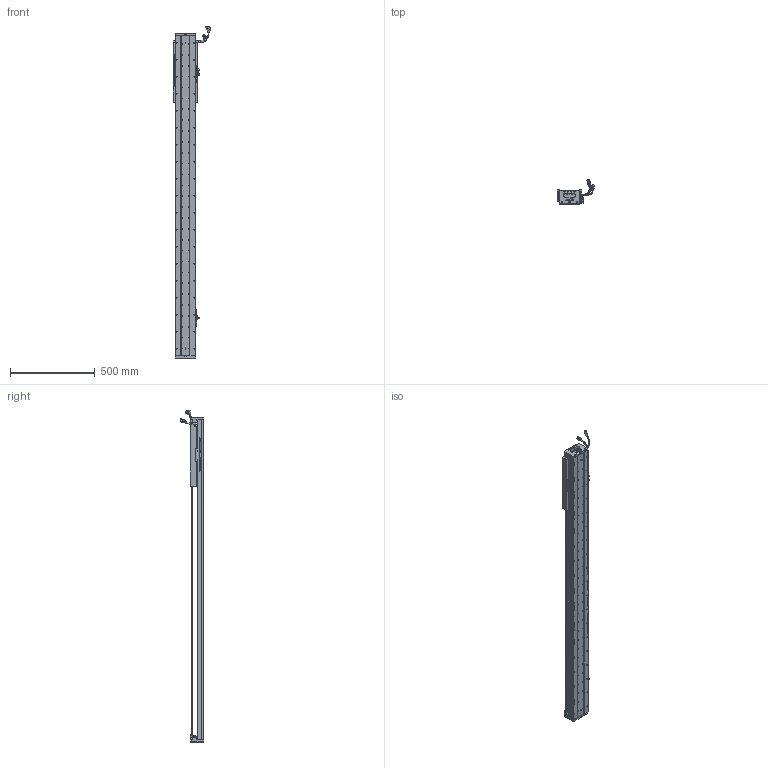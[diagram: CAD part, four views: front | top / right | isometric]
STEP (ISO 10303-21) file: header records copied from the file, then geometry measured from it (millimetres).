
FILE_DESCRIPTION (( 'STEP AP203' ), '1' );
FILE_NAME ('Z5-RY120D-1-L500-B-K.SLDASM_1450.step', '2021-05-17T06:23:06', ( '盈信电脑' ), ( '东莞市道滘镇水果街19号' ), 'SwSTEP 2.0', 'SolidWorks 2016', '' );
FILE_SCHEMA (( 'CONFIG_CONTROL_DESIGN' ));
Length unit declared in the file: millimetre
Products named in the file (37): SCALE-Part-1; Z5-RY120铝滑块（21款）; SCALE-Part-2; PSLH080_PSLF2; Z5-RY120-L500詩湍100mm遵_1450; SHIELDPLATE; SCREW-M1.6-1; COVER; SEAL; Z5-RY120D-1-L500-B-K.SLDASM_1450; Z5-RY120-500-倰第菁釱_1450; HARNESS-Part-1; Z-RY120D詩湍奻揤裔; LABEL; PBU_SHEET; SCREW-M1.7-1; SCREW-M1.6-2; SCREW-M1.6-3; COVER-Part-1; 672嫖萇羲壽假蚾釱; SCALE; Z-120詩湍傷裔啣; HARNESS; Z-RY120D詩湍狟揤裔; 覜茼ん672; RY100FB-遵嫖萇覜茼え; HARNESS-Part-2; 140蚥薯蝶輸; LABEL-Part-1; SCREW-M1.7; 080黍杅芛假蚾釱21遴; 140雄赽晤鎢ん堤盄; 榋妏寠巭燃_暯_M2_2; SEAL-Part-1; HOLDER0; 120-Z-臏賑輸盄裔(21遴); SCREW-M1.6
Assembly tree (43 placements, depth 4):
  Z5-RY120D-1-L500-B-K.SLDASM_1450
    Z5-RY120-500-倰第菁釱_1450
    覜茼ん672  x3
    672嫖萇羲壽假蚾釱  x2
    Z5-RY120铝滑块（21款）
    PSLH080_PSLF2
      SCALE
        SCALE-Part-1
        SCALE-Part-2
      HARNESS
        HARNESS-Part-1
        HARNESS-Part-2
      LABEL
        LABEL-Part-1
      COVER
        COVER-Part-1
      SEAL
        SEAL-Part-1
      榋妏寠巭燃_暯_M2_2
      SHIELDPLATE
      SCREW-M1.7
      SCREW-M1.7-1
      PBU_SHEET
      SCREW-M1.6
      SCREW-M1.6-1
      SCREW-M1.6-2
      SCREW-M1.6-3
      HOLDER0
    080黍杅芛假蚾釱21遴
    120-Z-臏賑輸盄裔(21遴)
    140雄赽晤鎢ん堤盄
    140蚥薯蝶輸  x2
    RY100FB-遵嫖萇覜茼え
    Z-120詩湍傷裔啣  x2
    Z-RY120D詩湍奻揤裔  x2
    Z-RY120D詩湍狟揤裔  x2
    Z5-RY120-L500詩湍100mm遵_1450
Bounding box: 222.88 x 140.94 x 1953.99 mm (x, y, z)
Volume: 5169093.4 mm3; surface area: 1720925.9 mm2
Topology: 38 solids, 38 shells, 3357 faces, 9355 edges, 5908 vertices
Faces by surface type: cylinder 1695, plane 1202, cone 338, torus 69, bspline 53
Entity records: 108132 total; most frequent: CARTESIAN_POINT 31373, ORIENTED_EDGE 15558, DIRECTION 14713, EDGE_CURVE 7779, AXIS2_PLACEMENT_3D 5442, VERTEX_POINT 5028, VECTOR 3829, LINE 3829
